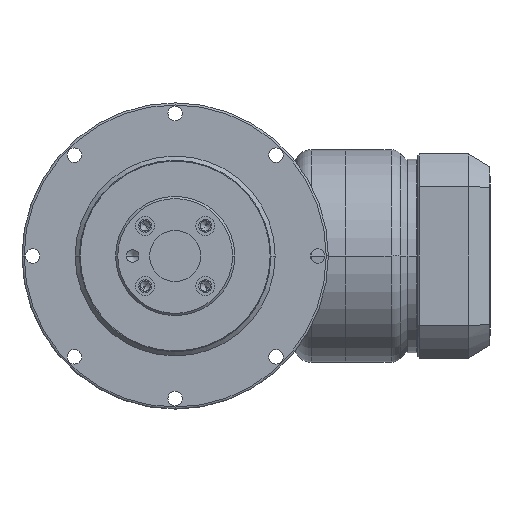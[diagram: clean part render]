
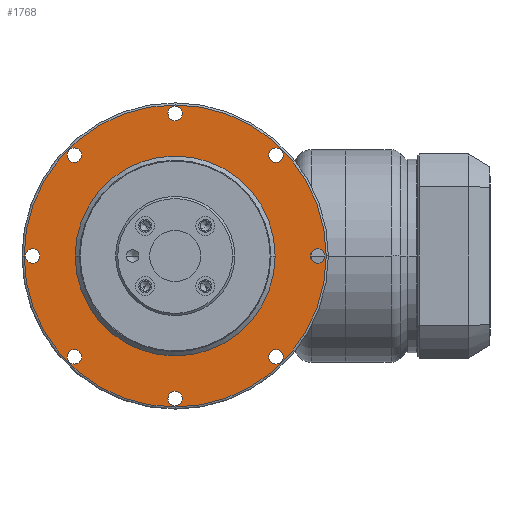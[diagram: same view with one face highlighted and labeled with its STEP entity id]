
A CAD part, left-side view. The second image highlights one B-rep face of the part: STEP entity #1768.
In plain terms, the highlighted planar face has unit normal (-1, 0, 0) as drawn and (1, 0, 0) by its records, which use the part's own axes.
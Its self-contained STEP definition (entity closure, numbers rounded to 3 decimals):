
#83=CARTESIAN_POINT('',(0.,23.688,-23.688));
#84=DIRECTION('',(-1.,0.,0.));
#85=DIRECTION('',(0.,-1.,0.));
#86=AXIS2_PLACEMENT_3D('',#83,#84,#85);
#88=CARTESIAN_POINT('',(0.,23.688,-23.688));
#89=DIRECTION('',(-1.,0.,0.));
#90=DIRECTION('',(0.,1.,0.));
#91=AXIS2_PLACEMENT_3D('',#88,#89,#90);
#93=CARTESIAN_POINT('',(0.,0.,-33.5));
#94=DIRECTION('',(-1.,0.,0.));
#95=DIRECTION('',(0.,-1.,0.));
#96=AXIS2_PLACEMENT_3D('',#93,#94,#95);
#98=CARTESIAN_POINT('',(0.,0.,-33.5));
#99=DIRECTION('',(-1.,0.,0.));
#100=DIRECTION('',(0.,1.,0.));
#101=AXIS2_PLACEMENT_3D('',#98,#99,#100);
#103=CARTESIAN_POINT('',(0.,-23.688,-23.688));
#104=DIRECTION('',(-1.,0.,0.));
#105=DIRECTION('',(0.,-1.,0.));
#106=AXIS2_PLACEMENT_3D('',#103,#104,#105);
#108=CARTESIAN_POINT('',(0.,-23.688,-23.688));
#109=DIRECTION('',(-1.,0.,0.));
#110=DIRECTION('',(0.,1.,0.));
#111=AXIS2_PLACEMENT_3D('',#108,#109,#110);
#113=CARTESIAN_POINT('',(0.,-33.5,0.));
#114=DIRECTION('',(-1.,0.,0.));
#115=DIRECTION('',(0.,-1.,0.));
#116=AXIS2_PLACEMENT_3D('',#113,#114,#115);
#118=CARTESIAN_POINT('',(0.,-33.5,0.));
#119=DIRECTION('',(-1.,0.,0.));
#120=DIRECTION('',(0.,1.,0.));
#121=AXIS2_PLACEMENT_3D('',#118,#119,#120);
#123=CARTESIAN_POINT('',(0.,-23.688,23.688));
#124=DIRECTION('',(-1.,0.,0.));
#125=DIRECTION('',(0.,-1.,0.));
#126=AXIS2_PLACEMENT_3D('',#123,#124,#125);
#128=CARTESIAN_POINT('',(0.,-23.688,23.688));
#129=DIRECTION('',(-1.,0.,0.));
#130=DIRECTION('',(0.,1.,0.));
#131=AXIS2_PLACEMENT_3D('',#128,#129,#130);
#133=CARTESIAN_POINT('',(0.,0.,33.5));
#134=DIRECTION('',(-1.,0.,0.));
#135=DIRECTION('',(0.,-1.,0.));
#136=AXIS2_PLACEMENT_3D('',#133,#134,#135);
#138=CARTESIAN_POINT('',(0.,0.,33.5));
#139=DIRECTION('',(-1.,0.,0.));
#140=DIRECTION('',(0.,1.,0.));
#141=AXIS2_PLACEMENT_3D('',#138,#139,#140);
#143=CARTESIAN_POINT('',(0.,23.688,23.688));
#144=DIRECTION('',(-1.,0.,0.));
#145=DIRECTION('',(0.,-1.,0.));
#146=AXIS2_PLACEMENT_3D('',#143,#144,#145);
#148=CARTESIAN_POINT('',(0.,23.688,23.688));
#149=DIRECTION('',(-1.,0.,0.));
#150=DIRECTION('',(0.,1.,0.));
#151=AXIS2_PLACEMENT_3D('',#148,#149,#150);
#153=CARTESIAN_POINT('',(0.,0.,0.));
#154=DIRECTION('',(1.,0.,0.));
#155=DIRECTION('',(0.,1.,0.));
#156=AXIS2_PLACEMENT_3D('',#153,#154,#155);
#158=CARTESIAN_POINT('',(0.,0.,0.));
#159=DIRECTION('',(-1.,0.,0.));
#160=DIRECTION('',(0.,1.,0.));
#161=AXIS2_PLACEMENT_3D('',#158,#159,#160);
#163=CARTESIAN_POINT('',(0.,33.5,0.));
#164=DIRECTION('',(-1.,0.,0.));
#165=DIRECTION('',(0.,-1.,0.));
#166=AXIS2_PLACEMENT_3D('',#163,#164,#165);
#168=CARTESIAN_POINT('',(0.,33.5,0.));
#169=DIRECTION('',(-1.,0.,0.));
#170=DIRECTION('',(0.,1.,0.));
#171=AXIS2_PLACEMENT_3D('',#168,#169,#170);
#864=CARTESIAN_POINT('',(0.,0.,0.));
#865=DIRECTION('',(-1.,0.,0.));
#866=DIRECTION('',(0.,-1.,0.));
#867=AXIS2_PLACEMENT_3D('',#864,#865,#866);
#879=CARTESIAN_POINT('',(0.,0.,0.));
#880=DIRECTION('',(-1.,0.,0.));
#881=DIRECTION('',(0.,1.,0.));
#882=AXIS2_PLACEMENT_3D('',#879,#880,#881);
#1245=CARTESIAN_POINT('',(0.,23.5,0.));
#1246=CARTESIAN_POINT('',(0.,-23.5,0.));
#1247=VERTEX_POINT('',#1245);
#1248=VERTEX_POINT('',#1246);
#1253=CARTESIAN_POINT('',(0.,31.8,0.));
#1254=CARTESIAN_POINT('',(0.,35.2,0.));
#1255=VERTEX_POINT('',#1253);
#1256=VERTEX_POINT('',#1254);
#1261=CARTESIAN_POINT('',(0.,21.988,23.688));
#1262=CARTESIAN_POINT('',(0.,25.388,23.688));
#1263=VERTEX_POINT('',#1261);
#1264=VERTEX_POINT('',#1262);
#1269=CARTESIAN_POINT('',(0.,-1.7,33.5));
#1270=CARTESIAN_POINT('',(0.,1.7,33.5));
#1271=VERTEX_POINT('',#1269);
#1272=VERTEX_POINT('',#1270);
#1277=CARTESIAN_POINT('',(0.,-25.388,23.688));
#1278=CARTESIAN_POINT('',(0.,-21.988,23.688));
#1279=VERTEX_POINT('',#1277);
#1280=VERTEX_POINT('',#1278);
#1285=CARTESIAN_POINT('',(0.,-35.2,0.));
#1286=CARTESIAN_POINT('',(0.,-31.8,0.));
#1287=VERTEX_POINT('',#1285);
#1288=VERTEX_POINT('',#1286);
#1293=CARTESIAN_POINT('',(0.,-25.388,-23.688));
#1294=CARTESIAN_POINT('',(0.,-21.988,-23.688));
#1295=VERTEX_POINT('',#1293);
#1296=VERTEX_POINT('',#1294);
#1301=CARTESIAN_POINT('',(0.,-1.7,-33.5));
#1302=CARTESIAN_POINT('',(0.,1.7,-33.5));
#1303=VERTEX_POINT('',#1301);
#1304=VERTEX_POINT('',#1302);
#1309=CARTESIAN_POINT('',(0.,21.988,-23.688));
#1310=CARTESIAN_POINT('',(0.,25.388,-23.688));
#1311=VERTEX_POINT('',#1309);
#1312=VERTEX_POINT('',#1310);
#1337=CARTESIAN_POINT('',(0.,-35.5,0.));
#1338=CARTESIAN_POINT('',(0.,35.5,0.));
#1339=VERTEX_POINT('',#1337);
#1340=VERTEX_POINT('',#1338);
#1705=CARTESIAN_POINT('',(0.,0.,0.));
#1706=DIRECTION('',(1.,0.,0.));
#1707=DIRECTION('',(0.,-1.,0.));
#1708=AXIS2_PLACEMENT_3D('',#1705,#1706,#1707);
#1709=PLANE('',#1708);
#1711=ORIENTED_EDGE('',*,*,#1710,.T.);
#1713=ORIENTED_EDGE('',*,*,#1712,.T.);
#1714=EDGE_LOOP('',(#1711,#1713));
#1715=FACE_OUTER_BOUND('',#1714,.F.);
#1717=ORIENTED_EDGE('',*,*,#1716,.F.);
#1719=ORIENTED_EDGE('',*,*,#1718,.F.);
#1720=EDGE_LOOP('',(#1717,#1719));
#1721=FACE_BOUND('',#1720,.F.);
#1723=ORIENTED_EDGE('',*,*,#1722,.F.);
#1725=ORIENTED_EDGE('',*,*,#1724,.F.);
#1726=EDGE_LOOP('',(#1723,#1725));
#1727=FACE_BOUND('',#1726,.F.);
#1729=ORIENTED_EDGE('',*,*,#1728,.F.);
#1731=ORIENTED_EDGE('',*,*,#1730,.F.);
#1732=EDGE_LOOP('',(#1729,#1731));
#1733=FACE_BOUND('',#1732,.F.);
#1735=ORIENTED_EDGE('',*,*,#1734,.F.);
#1737=ORIENTED_EDGE('',*,*,#1736,.F.);
#1738=EDGE_LOOP('',(#1735,#1737));
#1739=FACE_BOUND('',#1738,.F.);
#1741=ORIENTED_EDGE('',*,*,#1740,.F.);
#1743=ORIENTED_EDGE('',*,*,#1742,.F.);
#1744=EDGE_LOOP('',(#1741,#1743));
#1745=FACE_BOUND('',#1744,.F.);
#1747=ORIENTED_EDGE('',*,*,#1746,.F.);
#1749=ORIENTED_EDGE('',*,*,#1748,.F.);
#1750=EDGE_LOOP('',(#1747,#1749));
#1751=FACE_BOUND('',#1750,.F.);
#1753=ORIENTED_EDGE('',*,*,#1752,.F.);
#1755=ORIENTED_EDGE('',*,*,#1754,.F.);
#1756=EDGE_LOOP('',(#1753,#1755));
#1757=FACE_BOUND('',#1756,.F.);
#1758=ORIENTED_EDGE('',*,*,#1687,.T.);
#1759=ORIENTED_EDGE('',*,*,#1672,.F.);
#1760=EDGE_LOOP('',(#1758,#1759));
#1761=FACE_BOUND('',#1760,.F.);
#1763=ORIENTED_EDGE('',*,*,#1762,.F.);
#1765=ORIENTED_EDGE('',*,*,#1764,.F.);
#1766=EDGE_LOOP('',(#1763,#1765));
#1767=FACE_BOUND('',#1766,.F.);
#1768=ADVANCED_FACE('',(#1715,#1721,#1727,#1733,#1739,#1745,#1751,#1757,#1761,
#1767),#1709,.T.);
#87=CIRCLE('',#86,1.7);
#92=CIRCLE('',#91,1.7);
#97=CIRCLE('',#96,1.7);
#102=CIRCLE('',#101,1.7);
#107=CIRCLE('',#106,1.7);
#112=CIRCLE('',#111,1.7);
#117=CIRCLE('',#116,1.7);
#122=CIRCLE('',#121,1.7);
#127=CIRCLE('',#126,1.7);
#132=CIRCLE('',#131,1.7);
#137=CIRCLE('',#136,1.7);
#142=CIRCLE('',#141,1.7);
#147=CIRCLE('',#146,1.7);
#152=CIRCLE('',#151,1.7);
#157=CIRCLE('',#156,23.5);
#162=CIRCLE('',#161,23.5);
#167=CIRCLE('',#166,1.7);
#172=CIRCLE('',#171,1.7);
#868=CIRCLE('',#867,35.5);
#883=CIRCLE('',#882,35.5);
#1672=EDGE_CURVE('',#1247,#1248,#162,.T.);
#1687=EDGE_CURVE('',#1247,#1248,#157,.T.);
#1710=EDGE_CURVE('',#1339,#1340,#868,.T.);
#1712=EDGE_CURVE('',#1340,#1339,#883,.T.);
#1716=EDGE_CURVE('',#1311,#1312,#87,.T.);
#1718=EDGE_CURVE('',#1312,#1311,#92,.T.);
#1722=EDGE_CURVE('',#1303,#1304,#97,.T.);
#1724=EDGE_CURVE('',#1304,#1303,#102,.T.);
#1728=EDGE_CURVE('',#1295,#1296,#107,.T.);
#1730=EDGE_CURVE('',#1296,#1295,#112,.T.);
#1734=EDGE_CURVE('',#1287,#1288,#117,.T.);
#1736=EDGE_CURVE('',#1288,#1287,#122,.T.);
#1740=EDGE_CURVE('',#1279,#1280,#127,.T.);
#1742=EDGE_CURVE('',#1280,#1279,#132,.T.);
#1746=EDGE_CURVE('',#1271,#1272,#137,.T.);
#1748=EDGE_CURVE('',#1272,#1271,#142,.T.);
#1752=EDGE_CURVE('',#1263,#1264,#147,.T.);
#1754=EDGE_CURVE('',#1264,#1263,#152,.T.);
#1762=EDGE_CURVE('',#1255,#1256,#167,.T.);
#1764=EDGE_CURVE('',#1256,#1255,#172,.T.);
